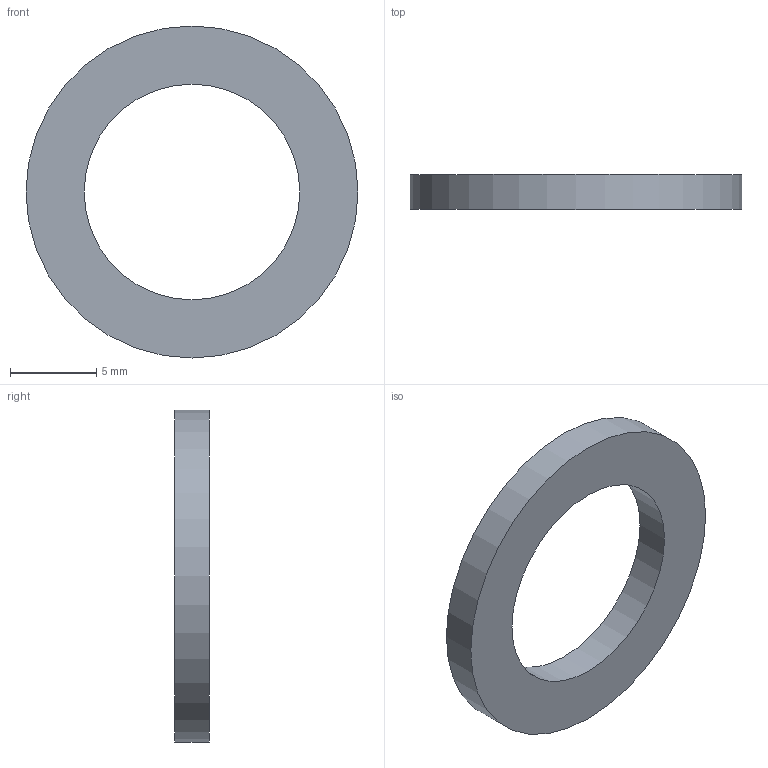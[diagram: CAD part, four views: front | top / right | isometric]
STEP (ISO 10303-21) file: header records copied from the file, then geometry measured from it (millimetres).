
FILE_DESCRIPTION(('Open CASCADE Model'),'2;1');
FILE_NAME('Open CASCADE Shape Model','2026-10-20T13:19:35',('Author'),( 'Open CASCADE'),'Open CASCADE STEP processor 7.9','Open CASCADE 7.9' ,'Unknown');
FILE_SCHEMA(('AUTOMOTIVE_DESIGN { 1 0 10303 214 1 1 1 1 }'));
Length unit declared in the file: millimetre
Products named in the file (1): Open CASCADE STEP translator 7.9 41
Bounding box: 19.2 x 2 x 19.2 mm (x, y, z)
Volume: 334.4 mm3; surface area: 533.5 mm2
Topology: 1 solids, 1 shells, 4 faces, 6 edges, 4 vertices
Faces by surface type: cylinder 2, plane 2
Full cylindrical faces by diameter (mm): 12.48 x1, 19.2 x1
Entity records: 186 total; most frequent: DIRECTION 32, CARTESIAN_POINT 27, ORIENTED_EDGE 12, PCURVE 12, DEFINITIONAL_REPRESENTATION 12, LINE 10, VECTOR 10, AXIS2_PLACEMENT_3D 9
